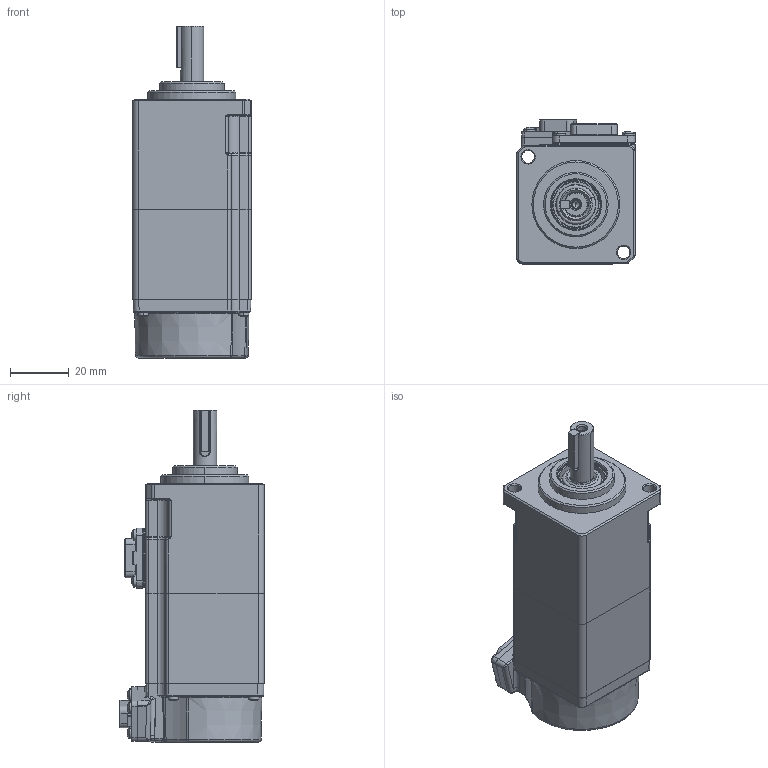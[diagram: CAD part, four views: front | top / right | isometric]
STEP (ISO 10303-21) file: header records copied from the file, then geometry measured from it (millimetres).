
FILE_DESCRIPTION (( 'STEP AP214' ), '1' );
FILE_NAME ('40法兰-50W-带油封带制动器(RSA1-H040AA5B30E).STEP', '2024-09-06T08:26:52', ( '' ), ( '' ), 'SwSTEP 2.0', 'SolidWorks 2020', '' );
FILE_SCHEMA (( 'AUTOMOTIVE_DESIGN' ));
Length unit declared in the file: millimetre
Products named in the file (11): す瑩_B3x3x14; 40-綴裔; 40法兰-50W-带油封带制动器(RSA1-H040AA5B30E); 3220000003_蚐猾_TC9x17x4(NBR); 40-50W儂褲-衄蚐猾; 3114000001_十字槽盘头自挤螺钉_M2x5(GBT6560-2014 锌镍合金 黑色); 40-8粣噤25粣扥; 3112000005_十字槽小盘头螺钉_M2x8(GBT823-2000 锌镍合金 黑色 耐落）; 3231000003_勾板螺丝型6pin连接器插座_GAMC3063; 40-惕掅綴傷裔; 苤萇儂晤鎢傷赽
Assembly tree (20 placements, depth 2):
  40法兰-50W-带油封带制动器(RSA1-H040AA5B30E)
    40-50W儂褲-衄蚐猾
    3112000005_十字槽小盘头螺钉_M2x8(GBT823-2000 锌镍合金 黑色 耐落）  x4
    3114000001_十字槽盘头自挤螺钉_M2x5(GBT6560-2014 锌镍合金 黑色)  x8
    3220000003_蚐猾_TC9x17x4(NBR)
    3231000003_勾板螺丝型6pin连接器插座_GAMC3063
    40-8粣噤25粣扥
    40-惕掅綴傷裔
    40-綴裔
    苤萇儂晤鎢傷赽
    す瑩_B3x3x14
Bounding box: 40.4 x 49.1 x 113.1 mm (x, y, z)
Volume: 114246.8 mm3; surface area: 41812.5 mm2
Topology: 23 solids, 23 shells, 2741 faces, 7251 edges, 4610 vertices
Faces by surface type: plane 1345, cylinder 637, bspline 315, cone 259, torus 155, sphere 30
Entity records: 91102 total; most frequent: CARTESIAN_POINT 26373, ORIENTED_EDGE 12624, DIRECTION 10988, EDGE_CURVE 6312, VERTEX_POINT 4022, LINE 3686, VECTOR 3686, AXIS2_PLACEMENT_3D 3651
